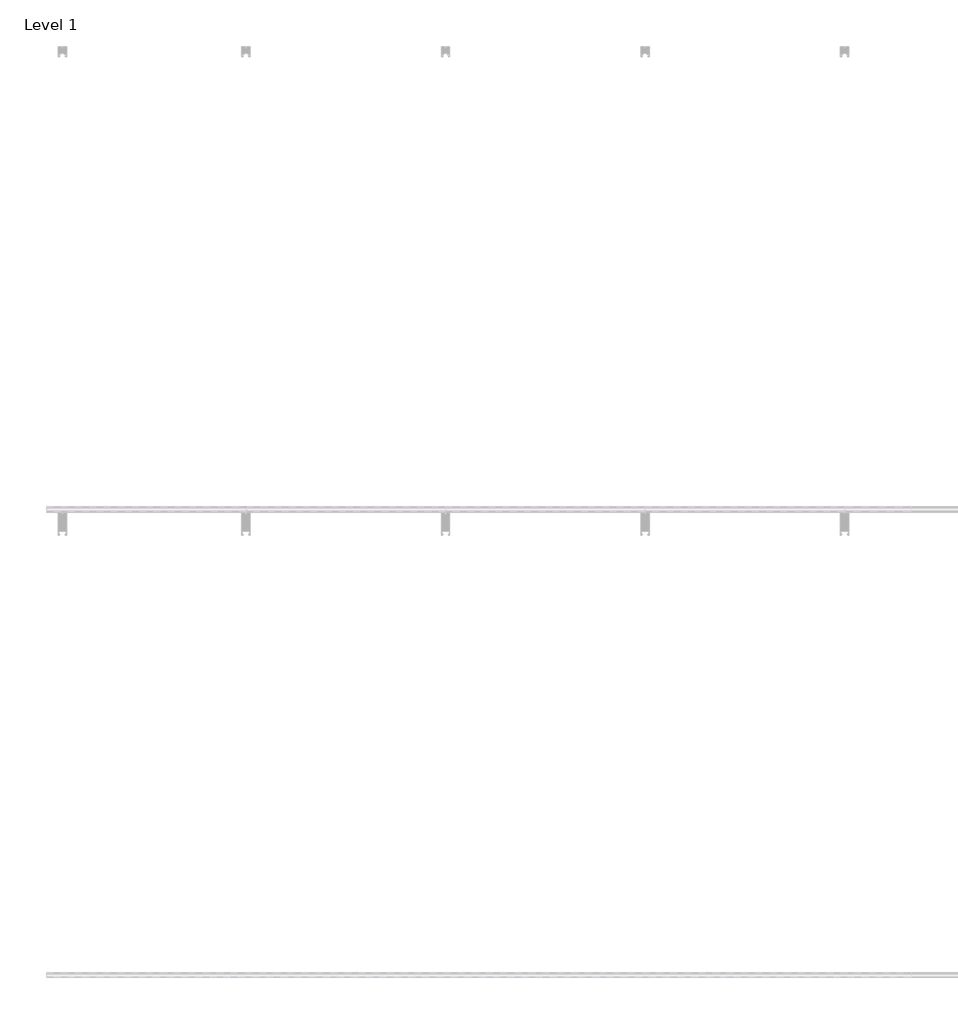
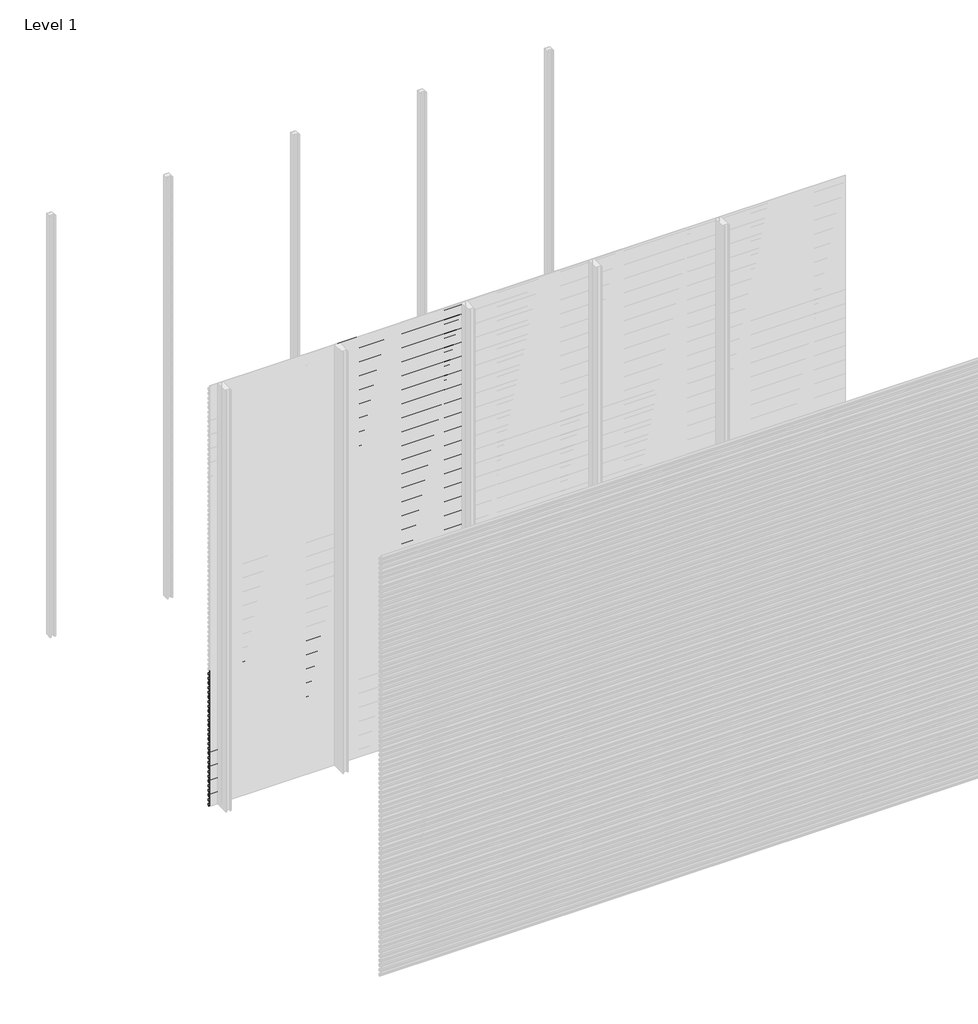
# One storey, part 62 of 96: 77 proxies.
"""IFC4 building model written with IfcOpenShell, lengths in millimetres."""

from ifc_helpers import new_model, si_unit, frame, origin, place, context, project, spatial, polyline, outline, extrude, element, save

model = new_model("IFC4")

# Units and contexts
model_context = context("Model", 3, world=origin())
ifc_project = project(units=[si_unit("LENGTHUNIT", "METRE", prefix="MILLI")], contexts=[model_context])

# Site, building, storey
site = spatial("IfcSite", under=ifc_project)
building = spatial("IfcBuilding", under=site)
storey = spatial("IfcBuildingStorey", under=building, Name="Level 1", Elevation=0.0)

# Proxies
placement = place(None, origin())
element("IfcBuildingElementProxy", 1, Name="Wall Sweeps", at=placement, inside=storey, context=model_context, shape_type="SweptSolid", body=[
    extrude(outline(polyline([(-17977.6, 940.4655033), (-17977.6, 926.1779188), (-17982.4114965, 923.4), (-17982.4114965, 924.6701706), (-17978.85, 926.7264016), (-17978.85, 939.7437382), (-17998.0, 950.8000799), (-17998.0, 965.7), (-17996.75, 965.7), (-17996.75, 951.5217609), (-17977.6, 940.4655033)])), frame((0.0, 0.0, 0.0), z_axis=(1.0, 0.0, 0.0), x_axis=(0.0, 1.0, 0.0)), (0.0, 0.0, 1.0), 857.1428571),
])
element("IfcBuildingElementProxy", 2, Name="Wall Sweeps", at=placement, inside=storey, context=model_context, shape_type="SweptSolid", body=[
    extrude(outline(polyline([(-17977.6, 907.1655033), (-17977.6, 892.8779188), (-17982.4114965, 890.1), (-17982.4114965, 891.3701706), (-17978.85, 893.4264016), (-17978.85, 906.4437382), (-17998.0, 917.5000799), (-17998.0, 932.4), (-17996.75, 932.4), (-17996.75, 918.2217609), (-17977.6, 907.1655033)])), frame((0.0, 0.0, 0.0), z_axis=(1.0, 0.0, 0.0), x_axis=(0.0, 1.0, 0.0)), (0.0, 0.0, 1.0), 857.1428571),
])
element("IfcBuildingElementProxy", 3, Name="Wall Sweeps", at=placement, inside=storey, context=model_context, shape_type="SweptSolid", body=[
    extrude(outline(polyline([(-17977.6, 873.8655033), (-17977.6, 859.5779188), (-17982.4114965, 856.8), (-17982.4114965, 858.0701706), (-17978.85, 860.1264016), (-17978.85, 873.1437382), (-17998.0, 884.2000799), (-17998.0, 899.1), (-17996.75, 899.1), (-17996.75, 884.9217609), (-17977.6, 873.8655033)])), frame((0.0, 0.0, 0.0), z_axis=(1.0, 0.0, 0.0), x_axis=(0.0, 1.0, 0.0)), (0.0, 0.0, 1.0), 857.1428571),
])
element("IfcBuildingElementProxy", 4, Name="Wall Sweeps", at=placement, inside=storey, context=model_context, shape_type="SweptSolid", body=[
    extrude(outline(polyline([(-17977.6, 840.5655033), (-17977.6, 826.2779188), (-17982.4114965, 823.5), (-17982.4114965, 824.7701706), (-17978.85, 826.8264016), (-17978.85, 839.8437382), (-17998.0, 850.9000799), (-17998.0, 865.8), (-17996.75, 865.8), (-17996.75, 851.6217609), (-17977.6, 840.5655033)])), frame((0.0, 0.0, 0.0), z_axis=(1.0, 0.0, 0.0), x_axis=(0.0, 1.0, 0.0)), (0.0, 0.0, 1.0), 857.1428571),
])
element("IfcBuildingElementProxy", 5, Name="Wall Sweeps", at=placement, inside=storey, context=model_context, shape_type="SweptSolid", body=[
    extrude(outline(polyline([(-17977.6, 807.2655033), (-17977.6, 792.9779188), (-17982.4114965, 790.2), (-17982.4114965, 791.4701706), (-17978.85, 793.5264016), (-17978.85, 806.5437382), (-17998.0, 817.6000799), (-17998.0, 832.5), (-17996.75, 832.5), (-17996.75, 818.3217609), (-17977.6, 807.2655033)])), frame((0.0, 0.0, 0.0), z_axis=(1.0, 0.0, 0.0), x_axis=(0.0, 1.0, 0.0)), (0.0, 0.0, 1.0), 857.1428571),
])
element("IfcBuildingElementProxy", 6, Name="Wall Sweeps", at=placement, inside=storey, context=model_context, shape_type="SweptSolid", body=[
    extrude(outline(polyline([(-17977.6, 773.9655033), (-17977.6, 759.6779188), (-17982.4114965, 756.9), (-17982.4114965, 758.1701706), (-17978.85, 760.2264016), (-17978.85, 773.2437382), (-17998.0, 784.3000799), (-17998.0, 799.2), (-17996.75, 799.2), (-17996.75, 785.0217609), (-17977.6, 773.9655033)])), frame((0.0, 0.0, 0.0), z_axis=(1.0, 0.0, 0.0), x_axis=(0.0, 1.0, 0.0)), (0.0, 0.0, 1.0), 857.1428571),
])
element("IfcBuildingElementProxy", 7, Name="Wall Sweeps", at=placement, inside=storey, context=model_context, shape_type="SweptSolid", body=[
    extrude(outline(polyline([(-17977.6, 740.6655033), (-17977.6, 726.3779188), (-17982.4114965, 723.6), (-17982.4114965, 724.8701706), (-17978.85, 726.9264016), (-17978.85, 739.9437382), (-17998.0, 751.0000799), (-17998.0, 765.9), (-17996.75, 765.9), (-17996.75, 751.7217609), (-17977.6, 740.6655033)])), frame((0.0, 0.0, 0.0), z_axis=(1.0, 0.0, 0.0), x_axis=(0.0, 1.0, 0.0)), (0.0, 0.0, 1.0), 857.1428571),
])
element("IfcBuildingElementProxy", 8, Name="Wall Sweeps", at=placement, inside=storey, context=model_context, shape_type="SweptSolid", body=[
    extrude(outline(polyline([(-17977.6, 707.3655033), (-17977.6, 693.0779188), (-17982.4114965, 690.3), (-17982.4114965, 691.5701706), (-17978.85, 693.6264016), (-17978.85, 706.6437382), (-17998.0, 717.7000799), (-17998.0, 732.6), (-17996.75, 732.6), (-17996.75, 718.4217609), (-17977.6, 707.3655033)])), frame((0.0, 0.0, 0.0), z_axis=(1.0, 0.0, 0.0), x_axis=(0.0, 1.0, 0.0)), (0.0, 0.0, 1.0), 857.1428571),
])
element("IfcBuildingElementProxy", 9, Name="Wall Sweeps", at=placement, inside=storey, context=model_context, shape_type="SweptSolid", body=[
    extrude(outline(polyline([(-17977.6, 674.0655033), (-17977.6, 659.7779188), (-17982.4114965, 657.0), (-17982.4114965, 658.2701706), (-17978.85, 660.3264016), (-17978.85, 673.3437382), (-17998.0, 684.4000799), (-17998.0, 699.3), (-17996.75, 699.3), (-17996.75, 685.1217609), (-17977.6, 674.0655033)])), frame((0.0, 0.0, 0.0), z_axis=(1.0, 0.0, 0.0), x_axis=(0.0, 1.0, 0.0)), (0.0, 0.0, 1.0), 857.1428571),
])
element("IfcBuildingElementProxy", 10, Name="Wall Sweeps", at=placement, inside=storey, context=model_context, shape_type="SweptSolid", body=[
    extrude(outline(polyline([(-17977.6, 640.7655033), (-17977.6, 626.4779188), (-17982.4114965, 623.7), (-17982.4114965, 624.9701706), (-17978.85, 627.0264016), (-17978.85, 640.0437382), (-17998.0, 651.1000799), (-17998.0, 666.0), (-17996.75, 666.0), (-17996.75, 651.8217609), (-17977.6, 640.7655033)])), frame((0.0, 0.0, 0.0), z_axis=(1.0, 0.0, 0.0), x_axis=(0.0, 1.0, 0.0)), (0.0, 0.0, 1.0), 857.1428571),
])
element("IfcBuildingElementProxy", 11, Name="Wall Sweeps", at=placement, inside=storey, context=model_context, shape_type="SweptSolid", body=[
    extrude(outline(polyline([(-17977.6, 607.4655033), (-17977.6, 593.1779188), (-17982.4114965, 590.4), (-17982.4114965, 591.6701706), (-17978.85, 593.7264016), (-17978.85, 606.7437382), (-17998.0, 617.8000799), (-17998.0, 632.7), (-17996.75, 632.7), (-17996.75, 618.5217609), (-17977.6, 607.4655033)])), frame((0.0, 0.0, 0.0), z_axis=(1.0, 0.0, 0.0), x_axis=(0.0, 1.0, 0.0)), (0.0, 0.0, 1.0), 857.1428571),
])
element("IfcBuildingElementProxy", 12, Name="Wall Sweeps", at=placement, inside=storey, context=model_context, shape_type="SweptSolid", body=[
    extrude(outline(polyline([(-17977.6, 574.1655033), (-17977.6, 559.8779188), (-17982.4114965, 557.1), (-17982.4114965, 558.3701706), (-17978.85, 560.4264016), (-17978.85, 573.4437382), (-17998.0, 584.5000799), (-17998.0, 599.4), (-17996.75, 599.4), (-17996.75, 585.2217609), (-17977.6, 574.1655033)])), frame((0.0, 0.0, 0.0), z_axis=(1.0, 0.0, 0.0), x_axis=(0.0, 1.0, 0.0)), (0.0, 0.0, 1.0), 857.1428571),
])
element("IfcBuildingElementProxy", 13, Name="Wall Sweeps", at=placement, inside=storey, context=model_context, shape_type="SweptSolid", body=[
    extrude(outline(polyline([(-17977.6, 540.8655033), (-17977.6, 526.5779188), (-17982.4114965, 523.8), (-17982.4114965, 525.0701706), (-17978.85, 527.1264016), (-17978.85, 540.1437382), (-17998.0, 551.2000799), (-17998.0, 566.1), (-17996.75, 566.1), (-17996.75, 551.9217609), (-17977.6, 540.8655033)])), frame((0.0, 0.0, 0.0), z_axis=(1.0, 0.0, 0.0), x_axis=(0.0, 1.0, 0.0)), (0.0, 0.0, 1.0), 857.1428571),
])
element("IfcBuildingElementProxy", 14, Name="Wall Sweeps", at=placement, inside=storey, context=model_context, shape_type="SweptSolid", body=[
    extrude(outline(polyline([(-17977.6, 507.5655033), (-17977.6, 493.2779188), (-17982.4114965, 490.5), (-17982.4114965, 491.7701706), (-17978.85, 493.8264016), (-17978.85, 506.8437382), (-17998.0, 517.9000799), (-17998.0, 532.8), (-17996.75, 532.8), (-17996.75, 518.6217609), (-17977.6, 507.5655033)])), frame((0.0, 0.0, 0.0), z_axis=(1.0, 0.0, 0.0), x_axis=(0.0, 1.0, 0.0)), (0.0, 0.0, 1.0), 857.1428571),
])
element("IfcBuildingElementProxy", 15, Name="Wall Sweeps", at=placement, inside=storey, context=model_context, shape_type="SweptSolid", body=[
    extrude(outline(polyline([(-17977.6, 474.2655033), (-17977.6, 459.9779188), (-17982.4114965, 457.2), (-17982.4114965, 458.4701706), (-17978.85, 460.5264016), (-17978.85, 473.5437382), (-17998.0, 484.6000799), (-17998.0, 499.5), (-17996.75, 499.5), (-17996.75, 485.3217609), (-17977.6, 474.2655033)])), frame((0.0, 0.0, 0.0), z_axis=(1.0, 0.0, 0.0), x_axis=(0.0, 1.0, 0.0)), (0.0, 0.0, 1.0), 857.1428571),
])
element("IfcBuildingElementProxy", 16, Name="Wall Sweeps", at=placement, inside=storey, context=model_context, shape_type="SweptSolid", body=[
    extrude(outline(polyline([(-17977.6, 440.9655033), (-17977.6, 426.6779188), (-17982.4114965, 423.9), (-17982.4114965, 425.1701706), (-17978.85, 427.2264016), (-17978.85, 440.2437382), (-17998.0, 451.3000799), (-17998.0, 466.2), (-17996.75, 466.2), (-17996.75, 452.0217609), (-17977.6, 440.9655033)])), frame((0.0, 0.0, 0.0), z_axis=(1.0, 0.0, 0.0), x_axis=(0.0, 1.0, 0.0)), (0.0, 0.0, 1.0), 857.1428571),
])
element("IfcBuildingElementProxy", 17, Name="Wall Sweeps", at=placement, inside=storey, context=model_context, shape_type="SweptSolid", body=[
    extrude(outline(polyline([(-17977.6, 407.6655033), (-17977.6, 393.3779188), (-17982.4114965, 390.6), (-17982.4114965, 391.8701706), (-17978.85, 393.9264016), (-17978.85, 406.9437382), (-17998.0, 418.0000799), (-17998.0, 432.9), (-17996.75, 432.9), (-17996.75, 418.7217609), (-17977.6, 407.6655033)])), frame((0.0, 0.0, 0.0), z_axis=(1.0, 0.0, 0.0), x_axis=(0.0, 1.0, 0.0)), (0.0, 0.0, 1.0), 857.1428571),
])
element("IfcBuildingElementProxy", 18, Name="Wall Sweeps", at=placement, inside=storey, context=model_context, shape_type="SweptSolid", body=[
    extrude(outline(polyline([(-17977.6, 374.3655033), (-17977.6, 360.0779188), (-17982.4114965, 357.3), (-17982.4114965, 358.5701706), (-17978.85, 360.6264016), (-17978.85, 373.6437382), (-17998.0, 384.7000799), (-17998.0, 399.6), (-17996.75, 399.6), (-17996.75, 385.4217609), (-17977.6, 374.3655033)])), frame((0.0, 0.0, 0.0), z_axis=(1.0, 0.0, 0.0), x_axis=(0.0, 1.0, 0.0)), (0.0, 0.0, 1.0), 857.1428571),
])
element("IfcBuildingElementProxy", 19, Name="Wall Sweeps", at=placement, inside=storey, context=model_context, shape_type="SweptSolid", body=[
    extrude(outline(polyline([(-17977.6, 341.0655033), (-17977.6, 326.7779188), (-17982.4114965, 324.0), (-17982.4114965, 325.2701706), (-17978.85, 327.3264016), (-17978.85, 340.3437382), (-17998.0, 351.4000799), (-17998.0, 366.3), (-17996.75, 366.3), (-17996.75, 352.1217609), (-17977.6, 341.0655033)])), frame((0.0, 0.0, 0.0), z_axis=(1.0, 0.0, 0.0), x_axis=(0.0, 1.0, 0.0)), (0.0, 0.0, 1.0), 857.1428571),
])
element("IfcBuildingElementProxy", 20, Name="Wall Sweeps", at=placement, inside=storey, context=model_context, shape_type="SweptSolid", body=[
    extrude(outline(polyline([(-17977.6, 307.7655033), (-17977.6, 293.4779188), (-17982.4114965, 290.7), (-17982.4114965, 291.9701706), (-17978.85, 294.0264016), (-17978.85, 307.0437382), (-17998.0, 318.1000799), (-17998.0, 333.0), (-17996.75, 333.0), (-17996.75, 318.8217609), (-17977.6, 307.7655033)])), frame((0.0, 0.0, 0.0), z_axis=(1.0, 0.0, 0.0), x_axis=(0.0, 1.0, 0.0)), (0.0, 0.0, 1.0), 857.1428571),
])
element("IfcBuildingElementProxy", 21, Name="Wall Sweeps", at=placement, inside=storey, context=model_context, shape_type="SweptSolid", body=[
    extrude(outline(polyline([(-17977.6, 274.4655033), (-17977.6, 260.1779188), (-17982.4114965, 257.4), (-17982.4114965, 258.6701706), (-17978.85, 260.7264016), (-17978.85, 273.7437382), (-17998.0, 284.8000799), (-17998.0, 299.7), (-17996.75, 299.7), (-17996.75, 285.5217609), (-17977.6, 274.4655033)])), frame((0.0, 0.0, 0.0), z_axis=(1.0, 0.0, 0.0), x_axis=(0.0, 1.0, 0.0)), (0.0, 0.0, 1.0), 857.1428571),
])
element("IfcBuildingElementProxy", 22, Name="Wall Sweeps", at=placement, inside=storey, context=model_context, shape_type="SweptSolid", body=[
    extrude(outline(polyline([(-17977.6, 241.1655033), (-17977.6, 226.8779188), (-17982.4114965, 224.1), (-17982.4114965, 225.3701706), (-17978.85, 227.4264016), (-17978.85, 240.4437382), (-17998.0, 251.5000799), (-17998.0, 266.4), (-17996.75, 266.4), (-17996.75, 252.2217609), (-17977.6, 241.1655033)])), frame((0.0, 0.0, 0.0), z_axis=(1.0, 0.0, 0.0), x_axis=(0.0, 1.0, 0.0)), (0.0, 0.0, 1.0), 857.1428571),
])
element("IfcBuildingElementProxy", 23, Name="Wall Sweeps", at=placement, inside=storey, context=model_context, shape_type="SweptSolid", body=[
    extrude(outline(polyline([(-17977.6, 207.8655033), (-17977.6, 193.5779188), (-17982.4114965, 190.8), (-17982.4114965, 192.0701706), (-17978.85, 194.1264016), (-17978.85, 207.1437382), (-17998.0, 218.2000799), (-17998.0, 233.1), (-17996.75, 233.1), (-17996.75, 218.9217609), (-17977.6, 207.8655033)])), frame((0.0, 0.0, 0.0), z_axis=(1.0, 0.0, 0.0), x_axis=(0.0, 1.0, 0.0)), (0.0, 0.0, 1.0), 857.1428571),
])
element("IfcBuildingElementProxy", 24, Name="Wall Sweeps", at=placement, inside=storey, context=model_context, shape_type="SweptSolid", body=[
    extrude(outline(polyline([(-17977.6, 174.5655033), (-17977.6, 160.2779188), (-17982.4114965, 157.5), (-17982.4114965, 158.7701706), (-17978.85, 160.8264016), (-17978.85, 173.8437382), (-17998.0, 184.9000799), (-17998.0, 199.8), (-17996.75, 199.8), (-17996.75, 185.6217609), (-17977.6, 174.5655033)])), frame((0.0, 0.0, 0.0), z_axis=(1.0, 0.0, 0.0), x_axis=(0.0, 1.0, 0.0)), (0.0, 0.0, 1.0), 857.1428571),
])
element("IfcBuildingElementProxy", 25, Name="Wall Sweeps", at=placement, inside=storey, context=model_context, shape_type="SweptSolid", body=[
    extrude(outline(polyline([(-17977.6, 141.2655033), (-17977.6, 126.9779188), (-17982.4114965, 124.2), (-17982.4114965, 125.4701706), (-17978.85, 127.5264016), (-17978.85, 140.5437382), (-17998.0, 151.6000799), (-17998.0, 166.5), (-17996.75, 166.5), (-17996.75, 152.3217609), (-17977.6, 141.2655033)])), frame((0.0, 0.0, 0.0), z_axis=(1.0, 0.0, 0.0), x_axis=(0.0, 1.0, 0.0)), (0.0, 0.0, 1.0), 857.1428571),
])
element("IfcBuildingElementProxy", 26, Name="Wall Sweeps", at=placement, inside=storey, context=model_context, shape_type="SweptSolid", body=[
    extrude(outline(polyline([(-17977.6, 107.9655033), (-17977.6, 93.6779188), (-17982.4114965, 90.9), (-17982.4114965, 92.1701706), (-17978.85, 94.2264016), (-17978.85, 107.2437382), (-17998.0, 118.3000799), (-17998.0, 133.2), (-17996.75, 133.2), (-17996.75, 119.0217609), (-17977.6, 107.9655033)])), frame((0.0, 0.0, 0.0), z_axis=(1.0, 0.0, 0.0), x_axis=(0.0, 1.0, 0.0)), (0.0, 0.0, 1.0), 857.1428571),
])
element("IfcBuildingElementProxy", 27, Name="Wall Sweeps", at=placement, inside=storey, context=model_context, shape_type="SweptSolid", body=[
    extrude(outline(polyline([(-17977.6, 74.6655033), (-17977.6, 60.3779188), (-17982.4114965, 57.6), (-17982.4114965, 58.8701706), (-17978.85, 60.9264016), (-17978.85, 73.9437382), (-17998.0, 85.0000799), (-17998.0, 99.9), (-17996.75, 99.9), (-17996.75, 85.7217609), (-17977.6, 74.6655033)])), frame((0.0, 0.0, 0.0), z_axis=(1.0, 0.0, 0.0), x_axis=(0.0, 1.0, 0.0)), (0.0, 0.0, 1.0), 857.1428571),
])
element("IfcBuildingElementProxy", 28, Name="Wall Sweeps", at=placement, inside=storey, context=model_context, shape_type="SweptSolid", body=[
    extrude(outline(polyline([(-17977.6, 41.3655033), (-17977.6, 27.0779188), (-17982.4114965, 24.3), (-17982.4114965, 25.5701706), (-17978.85, 27.6264016), (-17978.85, 40.6437382), (-17998.0, 51.7000799), (-17998.0, 66.6), (-17996.75, 66.6), (-17996.75, 52.4217609), (-17977.6, 41.3655033)])), frame((0.0, 0.0, 0.0), z_axis=(1.0, 0.0, 0.0), x_axis=(0.0, 1.0, 0.0)), (0.0, 0.0, 1.0), 857.1428571),
])
element("IfcBuildingElementProxy", 29, Name="Wall Sweeps", at=placement, inside=storey, context=model_context, shape_type="SweptSolid", body=[
    extrude(outline(polyline([(-17977.6, 8.0655033), (-17977.6, -6.2220812), (-17982.4114965, -9.0), (-17982.4114965, -7.7298294), (-17978.85, -5.6735984), (-17978.85, 7.3437382), (-17998.0, 18.4000799), (-17998.0, 33.3), (-17996.75, 33.3), (-17996.75, 19.1217609), (-17977.6, 8.0655033)])), frame((0.0, 0.0, 0.0), z_axis=(1.0, 0.0, 0.0), x_axis=(0.0, 1.0, 0.0)), (0.0, 0.0, 1.0), 857.1428571),
])
element("IfcBuildingElementProxy", 30, Name="Wall Sweeps", at=placement, inside=storey, context=model_context, shape_type="SweptSolid", body=[
    extrude(outline(polyline([(-17977.6, 2971.7655033), (-17977.6, 2957.4779188), (-17982.4114965, 2954.7), (-17982.4114965, 2955.9701706), (-17978.85, 2958.0264016), (-17978.85, 2971.0437382), (-17998.0, 2982.1000799), (-17998.0, 2997.0), (-17996.75, 2997.0), (-17996.75, 2982.8217609), (-17977.6, 2971.7655033)])), frame((857.1428571, 0.0, 0.0), z_axis=(1.0, 0.0, 0.0), x_axis=(0.0, 1.0, 0.0)), (0.0, 0.0, 1.0), 857.1428571),
])
element("IfcBuildingElementProxy", 31, Name="Wall Sweeps", at=placement, inside=storey, context=model_context, shape_type="SweptSolid", body=[
    extrude(outline(polyline([(-17977.6, 2938.4655033), (-17977.6, 2924.1779188), (-17982.4114965, 2921.4), (-17982.4114965, 2922.6701706), (-17978.85, 2924.7264016), (-17978.85, 2937.7437382), (-17998.0, 2948.8000799), (-17998.0, 2963.7), (-17996.75, 2963.7), (-17996.75, 2949.5217609), (-17977.6, 2938.4655033)])), frame((857.1428571, 0.0, 0.0), z_axis=(1.0, 0.0, 0.0), x_axis=(0.0, 1.0, 0.0)), (0.0, 0.0, 1.0), 857.1428571),
])
element("IfcBuildingElementProxy", 32, Name="Wall Sweeps", at=placement, inside=storey, context=model_context, shape_type="SweptSolid", body=[
    extrude(outline(polyline([(-17977.6, 2905.1655033), (-17977.6, 2890.8779188), (-17982.4114965, 2888.1), (-17982.4114965, 2889.3701706), (-17978.85, 2891.4264016), (-17978.85, 2904.4437382), (-17998.0, 2915.5000799), (-17998.0, 2930.4), (-17996.75, 2930.4), (-17996.75, 2916.2217609), (-17977.6, 2905.1655033)])), frame((857.1428571, 0.0, 0.0), z_axis=(1.0, 0.0, 0.0), x_axis=(0.0, 1.0, 0.0)), (0.0, 0.0, 1.0), 857.1428571),
])
element("IfcBuildingElementProxy", 33, Name="Wall Sweeps", at=placement, inside=storey, context=model_context, shape_type="SweptSolid", body=[
    extrude(outline(polyline([(-17977.6, 2871.8655033), (-17977.6, 2857.5779188), (-17982.4114965, 2854.8), (-17982.4114965, 2856.0701706), (-17978.85, 2858.1264016), (-17978.85, 2871.1437382), (-17998.0, 2882.2000799), (-17998.0, 2897.1), (-17996.75, 2897.1), (-17996.75, 2882.9217609), (-17977.6, 2871.8655033)])), frame((857.1428571, 0.0, 0.0), z_axis=(1.0, 0.0, 0.0), x_axis=(0.0, 1.0, 0.0)), (0.0, 0.0, 1.0), 857.1428571),
])
element("IfcBuildingElementProxy", 34, Name="Wall Sweeps", at=placement, inside=storey, context=model_context, shape_type="SweptSolid", body=[
    extrude(outline(polyline([(-17977.6, 2838.5655033), (-17977.6, 2824.2779188), (-17982.4114965, 2821.5), (-17982.4114965, 2822.7701706), (-17978.85, 2824.8264016), (-17978.85, 2837.8437382), (-17998.0, 2848.9000799), (-17998.0, 2863.8), (-17996.75, 2863.8), (-17996.75, 2849.6217609), (-17977.6, 2838.5655033)])), frame((857.1428571, 0.0, 0.0), z_axis=(1.0, 0.0, 0.0), x_axis=(0.0, 1.0, 0.0)), (0.0, 0.0, 1.0), 857.1428571),
])
element("IfcBuildingElementProxy", 35, Name="Wall Sweeps", at=placement, inside=storey, context=model_context, shape_type="SweptSolid", body=[
    extrude(outline(polyline([(-17977.6, 2805.2655033), (-17977.6, 2790.9779188), (-17982.4114965, 2788.2), (-17982.4114965, 2789.4701706), (-17978.85, 2791.5264016), (-17978.85, 2804.5437382), (-17998.0, 2815.6000799), (-17998.0, 2830.5), (-17996.75, 2830.5), (-17996.75, 2816.3217609), (-17977.6, 2805.2655033)])), frame((857.1428571, 0.0, 0.0), z_axis=(1.0, 0.0, 0.0), x_axis=(0.0, 1.0, 0.0)), (0.0, 0.0, 1.0), 857.1428571),
])
element("IfcBuildingElementProxy", 36, Name="Wall Sweeps", at=placement, inside=storey, context=model_context, shape_type="SweptSolid", body=[
    extrude(outline(polyline([(-17977.6, 2771.9655033), (-17977.6, 2757.6779188), (-17982.4114965, 2754.9), (-17982.4114965, 2756.1701706), (-17978.85, 2758.2264016), (-17978.85, 2771.2437382), (-17998.0, 2782.3000799), (-17998.0, 2797.2), (-17996.75, 2797.2), (-17996.75, 2783.0217609), (-17977.6, 2771.9655033)])), frame((857.1428571, 0.0, 0.0), z_axis=(1.0, 0.0, 0.0), x_axis=(0.0, 1.0, 0.0)), (0.0, 0.0, 1.0), 857.1428571),
])
element("IfcBuildingElementProxy", 37, Name="Wall Sweeps", at=placement, inside=storey, context=model_context, shape_type="SweptSolid", body=[
    extrude(outline(polyline([(-17977.6, 2738.6655033), (-17977.6, 2724.3779188), (-17982.4114965, 2721.6), (-17982.4114965, 2722.8701706), (-17978.85, 2724.9264016), (-17978.85, 2737.9437382), (-17998.0, 2749.0000799), (-17998.0, 2763.9), (-17996.75, 2763.9), (-17996.75, 2749.7217609), (-17977.6, 2738.6655033)])), frame((857.1428571, 0.0, 0.0), z_axis=(1.0, 0.0, 0.0), x_axis=(0.0, 1.0, 0.0)), (0.0, 0.0, 1.0), 857.1428571),
])
element("IfcBuildingElementProxy", 38, Name="Wall Sweeps", at=placement, inside=storey, context=model_context, shape_type="SweptSolid", body=[
    extrude(outline(polyline([(-17977.6, 2705.3655033), (-17977.6, 2691.0779188), (-17982.4114965, 2688.3), (-17982.4114965, 2689.5701706), (-17978.85, 2691.6264016), (-17978.85, 2704.6437382), (-17998.0, 2715.7000799), (-17998.0, 2730.6), (-17996.75, 2730.6), (-17996.75, 2716.4217609), (-17977.6, 2705.3655033)])), frame((857.1428571, 0.0, 0.0), z_axis=(1.0, 0.0, 0.0), x_axis=(0.0, 1.0, 0.0)), (0.0, 0.0, 1.0), 857.1428571),
])
element("IfcBuildingElementProxy", 39, Name="Wall Sweeps", at=placement, inside=storey, context=model_context, shape_type="SweptSolid", body=[
    extrude(outline(polyline([(-17977.6, 2672.0655033), (-17977.6, 2657.7779188), (-17982.4114965, 2655.0), (-17982.4114965, 2656.2701706), (-17978.85, 2658.3264016), (-17978.85, 2671.3437382), (-17998.0, 2682.4000799), (-17998.0, 2697.3), (-17996.75, 2697.3), (-17996.75, 2683.1217609), (-17977.6, 2672.0655033)])), frame((857.1428571, 0.0, 0.0), z_axis=(1.0, 0.0, 0.0), x_axis=(0.0, 1.0, 0.0)), (0.0, 0.0, 1.0), 857.1428571),
])
element("IfcBuildingElementProxy", 40, Name="Wall Sweeps", at=placement, inside=storey, context=model_context, shape_type="SweptSolid", body=[
    extrude(outline(polyline([(-17977.6, 2638.7655033), (-17977.6, 2624.4779188), (-17982.4114965, 2621.7), (-17982.4114965, 2622.9701706), (-17978.85, 2625.0264016), (-17978.85, 2638.0437382), (-17998.0, 2649.1000799), (-17998.0, 2664.0), (-17996.75, 2664.0), (-17996.75, 2649.8217609), (-17977.6, 2638.7655033)])), frame((857.1428571, 0.0, 0.0), z_axis=(1.0, 0.0, 0.0), x_axis=(0.0, 1.0, 0.0)), (0.0, 0.0, 1.0), 857.1428571),
])
element("IfcBuildingElementProxy", 41, Name="Wall Sweeps", at=placement, inside=storey, context=model_context, shape_type="SweptSolid", body=[
    extrude(outline(polyline([(-17977.6, 2605.4655033), (-17977.6, 2591.1779188), (-17982.4114965, 2588.4), (-17982.4114965, 2589.6701706), (-17978.85, 2591.7264016), (-17978.85, 2604.7437382), (-17998.0, 2615.8000799), (-17998.0, 2630.7), (-17996.75, 2630.7), (-17996.75, 2616.5217609), (-17977.6, 2605.4655033)])), frame((857.1428571, 0.0, 0.0), z_axis=(1.0, 0.0, 0.0), x_axis=(0.0, 1.0, 0.0)), (0.0, 0.0, 1.0), 857.1428571),
])
element("IfcBuildingElementProxy", 42, Name="Wall Sweeps", at=placement, inside=storey, context=model_context, shape_type="SweptSolid", body=[
    extrude(outline(polyline([(-17977.6, 2572.1655033), (-17977.6, 2557.8779188), (-17982.4114965, 2555.1), (-17982.4114965, 2556.3701706), (-17978.85, 2558.4264016), (-17978.85, 2571.4437382), (-17998.0, 2582.5000799), (-17998.0, 2597.4), (-17996.75, 2597.4), (-17996.75, 2583.2217609), (-17977.6, 2572.1655033)])), frame((857.1428571, 0.0, 0.0), z_axis=(1.0, 0.0, 0.0), x_axis=(0.0, 1.0, 0.0)), (0.0, 0.0, 1.0), 857.1428571),
])
element("IfcBuildingElementProxy", 43, Name="Wall Sweeps", at=placement, inside=storey, context=model_context, shape_type="SweptSolid", body=[
    extrude(outline(polyline([(-17977.6, 2538.8655033), (-17977.6, 2524.5779188), (-17982.4114965, 2521.8), (-17982.4114965, 2523.0701706), (-17978.85, 2525.1264016), (-17978.85, 2538.1437382), (-17998.0, 2549.2000799), (-17998.0, 2564.1), (-17996.75, 2564.1), (-17996.75, 2549.9217609), (-17977.6, 2538.8655033)])), frame((857.1428571, 0.0, 0.0), z_axis=(1.0, 0.0, 0.0), x_axis=(0.0, 1.0, 0.0)), (0.0, 0.0, 1.0), 857.1428571),
])
element("IfcBuildingElementProxy", 44, Name="Wall Sweeps", at=placement, inside=storey, context=model_context, shape_type="SweptSolid", body=[
    extrude(outline(polyline([(-17977.6, 2505.5655033), (-17977.6, 2491.2779188), (-17982.4114965, 2488.5), (-17982.4114965, 2489.7701706), (-17978.85, 2491.8264016), (-17978.85, 2504.8437382), (-17998.0, 2515.9000799), (-17998.0, 2530.8), (-17996.75, 2530.8), (-17996.75, 2516.6217609), (-17977.6, 2505.5655033)])), frame((857.1428571, 0.0, 0.0), z_axis=(1.0, 0.0, 0.0), x_axis=(0.0, 1.0, 0.0)), (0.0, 0.0, 1.0), 857.1428571),
])
element("IfcBuildingElementProxy", 45, Name="Wall Sweeps", at=placement, inside=storey, context=model_context, shape_type="SweptSolid", body=[
    extrude(outline(polyline([(-17977.6, 2472.2655033), (-17977.6, 2457.9779188), (-17982.4114965, 2455.2), (-17982.4114965, 2456.4701706), (-17978.85, 2458.5264016), (-17978.85, 2471.5437382), (-17998.0, 2482.6000799), (-17998.0, 2497.5), (-17996.75, 2497.5), (-17996.75, 2483.3217609), (-17977.6, 2472.2655033)])), frame((857.1428571, 0.0, 0.0), z_axis=(1.0, 0.0, 0.0), x_axis=(0.0, 1.0, 0.0)), (0.0, 0.0, 1.0), 857.1428571),
])
element("IfcBuildingElementProxy", 46, Name="Wall Sweeps", at=placement, inside=storey, context=model_context, shape_type="SweptSolid", body=[
    extrude(outline(polyline([(-17977.6, 2438.9655033), (-17977.6, 2424.6779188), (-17982.4114965, 2421.9), (-17982.4114965, 2423.1701706), (-17978.85, 2425.2264016), (-17978.85, 2438.2437382), (-17998.0, 2449.3000799), (-17998.0, 2464.2), (-17996.75, 2464.2), (-17996.75, 2450.0217609), (-17977.6, 2438.9655033)])), frame((857.1428571, 0.0, 0.0), z_axis=(1.0, 0.0, 0.0), x_axis=(0.0, 1.0, 0.0)), (0.0, 0.0, 1.0), 857.1428571),
])
element("IfcBuildingElementProxy", 47, Name="Wall Sweeps", at=placement, inside=storey, context=model_context, shape_type="SweptSolid", body=[
    extrude(outline(polyline([(-17977.6, 2405.6655033), (-17977.6, 2391.3779188), (-17982.4114965, 2388.6), (-17982.4114965, 2389.8701706), (-17978.85, 2391.9264016), (-17978.85, 2404.9437382), (-17998.0, 2416.0000799), (-17998.0, 2430.9), (-17996.75, 2430.9), (-17996.75, 2416.7217609), (-17977.6, 2405.6655033)])), frame((857.1428571, 0.0, 0.0), z_axis=(1.0, 0.0, 0.0), x_axis=(0.0, 1.0, 0.0)), (0.0, 0.0, 1.0), 857.1428571),
])
element("IfcBuildingElementProxy", 48, Name="Wall Sweeps", at=placement, inside=storey, context=model_context, shape_type="SweptSolid", body=[
    extrude(outline(polyline([(-17977.6, 2372.3655033), (-17977.6, 2358.0779188), (-17982.4114965, 2355.3), (-17982.4114965, 2356.5701706), (-17978.85, 2358.6264016), (-17978.85, 2371.6437382), (-17998.0, 2382.7000799), (-17998.0, 2397.6), (-17996.75, 2397.6), (-17996.75, 2383.4217609), (-17977.6, 2372.3655033)])), frame((857.1428571, 0.0, 0.0), z_axis=(1.0, 0.0, 0.0), x_axis=(0.0, 1.0, 0.0)), (0.0, 0.0, 1.0), 857.1428571),
])
element("IfcBuildingElementProxy", 49, Name="Wall Sweeps", at=placement, inside=storey, context=model_context, shape_type="SweptSolid", body=[
    extrude(outline(polyline([(-17977.6, 2339.0655033), (-17977.6, 2324.7779188), (-17982.4114965, 2322.0), (-17982.4114965, 2323.2701706), (-17978.85, 2325.3264016), (-17978.85, 2338.3437382), (-17998.0, 2349.4000799), (-17998.0, 2364.3), (-17996.75, 2364.3), (-17996.75, 2350.1217609), (-17977.6, 2339.0655033)])), frame((857.1428571, 0.0, 0.0), z_axis=(1.0, 0.0, 0.0), x_axis=(0.0, 1.0, 0.0)), (0.0, 0.0, 1.0), 857.1428571),
])
element("IfcBuildingElementProxy", 50, Name="Wall Sweeps", at=placement, inside=storey, context=model_context, shape_type="SweptSolid", body=[
    extrude(outline(polyline([(-17977.6, 2305.7655033), (-17977.6, 2291.4779188), (-17982.4114965, 2288.7), (-17982.4114965, 2289.9701706), (-17978.85, 2292.0264016), (-17978.85, 2305.0437382), (-17998.0, 2316.1000799), (-17998.0, 2331.0), (-17996.75, 2331.0), (-17996.75, 2316.8217609), (-17977.6, 2305.7655033)])), frame((857.1428571, 0.0, 0.0), z_axis=(1.0, 0.0, 0.0), x_axis=(0.0, 1.0, 0.0)), (0.0, 0.0, 1.0), 857.1428571),
])
element("IfcBuildingElementProxy", 51, Name="Wall Sweeps", at=placement, inside=storey, context=model_context, shape_type="SweptSolid", body=[
    extrude(outline(polyline([(-17977.6, 2272.4655033), (-17977.6, 2258.1779188), (-17982.4114965, 2255.4), (-17982.4114965, 2256.6701706), (-17978.85, 2258.7264016), (-17978.85, 2271.7437382), (-17998.0, 2282.8000799), (-17998.0, 2297.7), (-17996.75, 2297.7), (-17996.75, 2283.5217609), (-17977.6, 2272.4655033)])), frame((857.1428571, 0.0, 0.0), z_axis=(1.0, 0.0, 0.0), x_axis=(0.0, 1.0, 0.0)), (0.0, 0.0, 1.0), 857.1428571),
])
element("IfcBuildingElementProxy", 52, Name="Wall Sweeps", at=placement, inside=storey, context=model_context, shape_type="SweptSolid", body=[
    extrude(outline(polyline([(-17977.6, 2239.1655033), (-17977.6, 2224.8779188), (-17982.4114965, 2222.1), (-17982.4114965, 2223.3701706), (-17978.85, 2225.4264016), (-17978.85, 2238.4437382), (-17998.0, 2249.5000799), (-17998.0, 2264.4), (-17996.75, 2264.4), (-17996.75, 2250.2217609), (-17977.6, 2239.1655033)])), frame((857.1428571, 0.0, 0.0), z_axis=(1.0, 0.0, 0.0), x_axis=(0.0, 1.0, 0.0)), (0.0, 0.0, 1.0), 857.1428571),
])
element("IfcBuildingElementProxy", 53, Name="Wall Sweeps", at=placement, inside=storey, context=model_context, shape_type="SweptSolid", body=[
    extrude(outline(polyline([(-17977.6, 2205.8655033), (-17977.6, 2191.5779188), (-17982.4114965, 2188.8), (-17982.4114965, 2190.0701706), (-17978.85, 2192.1264016), (-17978.85, 2205.1437382), (-17998.0, 2216.2000799), (-17998.0, 2231.1), (-17996.75, 2231.1), (-17996.75, 2216.9217609), (-17977.6, 2205.8655033)])), frame((857.1428571, 0.0, 0.0), z_axis=(1.0, 0.0, 0.0), x_axis=(0.0, 1.0, 0.0)), (0.0, 0.0, 1.0), 857.1428571),
])
element("IfcBuildingElementProxy", 54, Name="Wall Sweeps", at=placement, inside=storey, context=model_context, shape_type="SweptSolid", body=[
    extrude(outline(polyline([(-17977.6, 2172.5655033), (-17977.6, 2158.2779188), (-17982.4114965, 2155.5), (-17982.4114965, 2156.7701706), (-17978.85, 2158.8264016), (-17978.85, 2171.8437382), (-17998.0, 2182.9000799), (-17998.0, 2197.8), (-17996.75, 2197.8), (-17996.75, 2183.6217609), (-17977.6, 2172.5655033)])), frame((857.1428571, 0.0, 0.0), z_axis=(1.0, 0.0, 0.0), x_axis=(0.0, 1.0, 0.0)), (0.0, 0.0, 1.0), 857.1428571),
])
element("IfcBuildingElementProxy", 55, Name="Wall Sweeps", at=placement, inside=storey, context=model_context, shape_type="SweptSolid", body=[
    extrude(outline(polyline([(-17977.6, 2139.2655033), (-17977.6, 2124.9779188), (-17982.4114965, 2122.2), (-17982.4114965, 2123.4701706), (-17978.85, 2125.5264016), (-17978.85, 2138.5437382), (-17998.0, 2149.6000799), (-17998.0, 2164.5), (-17996.75, 2164.5), (-17996.75, 2150.3217609), (-17977.6, 2139.2655033)])), frame((857.1428571, 0.0, 0.0), z_axis=(1.0, 0.0, 0.0), x_axis=(0.0, 1.0, 0.0)), (0.0, 0.0, 1.0), 857.1428571),
])
element("IfcBuildingElementProxy", 56, Name="Wall Sweeps", at=placement, inside=storey, context=model_context, shape_type="SweptSolid", body=[
    extrude(outline(polyline([(-17977.6, 2105.9655033), (-17977.6, 2091.6779188), (-17982.4114965, 2088.9), (-17982.4114965, 2090.1701706), (-17978.85, 2092.2264016), (-17978.85, 2105.2437382), (-17998.0, 2116.3000799), (-17998.0, 2131.2), (-17996.75, 2131.2), (-17996.75, 2117.0217609), (-17977.6, 2105.9655033)])), frame((857.1428571, 0.0, 0.0), z_axis=(1.0, 0.0, 0.0), x_axis=(0.0, 1.0, 0.0)), (0.0, 0.0, 1.0), 857.1428571),
])
element("IfcBuildingElementProxy", 57, Name="Wall Sweeps", at=placement, inside=storey, context=model_context, shape_type="SweptSolid", body=[
    extrude(outline(polyline([(-17977.6, 2072.6655033), (-17977.6, 2058.3779188), (-17982.4114965, 2055.6), (-17982.4114965, 2056.8701706), (-17978.85, 2058.9264016), (-17978.85, 2071.9437382), (-17998.0, 2083.0000799), (-17998.0, 2097.9), (-17996.75, 2097.9), (-17996.75, 2083.7217609), (-17977.6, 2072.6655033)])), frame((857.1428571, 0.0, 0.0), z_axis=(1.0, 0.0, 0.0), x_axis=(0.0, 1.0, 0.0)), (0.0, 0.0, 1.0), 857.1428571),
])
element("IfcBuildingElementProxy", 58, Name="Wall Sweeps", at=placement, inside=storey, context=model_context, shape_type="SweptSolid", body=[
    extrude(outline(polyline([(-17977.6, 2039.3655033), (-17977.6, 2025.0779188), (-17982.4114965, 2022.3), (-17982.4114965, 2023.5701706), (-17978.85, 2025.6264016), (-17978.85, 2038.6437382), (-17998.0, 2049.7000799), (-17998.0, 2064.6), (-17996.75, 2064.6), (-17996.75, 2050.4217609), (-17977.6, 2039.3655033)])), frame((857.1428571, 0.0, 0.0), z_axis=(1.0, 0.0, 0.0), x_axis=(0.0, 1.0, 0.0)), (0.0, 0.0, 1.0), 857.1428571),
])
element("IfcBuildingElementProxy", 59, Name="Wall Sweeps", at=placement, inside=storey, context=model_context, shape_type="SweptSolid", body=[
    extrude(outline(polyline([(-17977.6, 2006.0655033), (-17977.6, 1991.7779188), (-17982.4114965, 1989.0), (-17982.4114965, 1990.2701706), (-17978.85, 1992.3264016), (-17978.85, 2005.3437382), (-17998.0, 2016.4000799), (-17998.0, 2031.3), (-17996.75, 2031.3), (-17996.75, 2017.1217609), (-17977.6, 2006.0655033)])), frame((857.1428571, 0.0, 0.0), z_axis=(1.0, 0.0, 0.0), x_axis=(0.0, 1.0, 0.0)), (0.0, 0.0, 1.0), 857.1428571),
])
element("IfcBuildingElementProxy", 60, Name="Wall Sweeps", at=placement, inside=storey, context=model_context, shape_type="SweptSolid", body=[
    extrude(outline(polyline([(-17977.6, 1972.7655033), (-17977.6, 1958.4779188), (-17982.4114965, 1955.7), (-17982.4114965, 1956.9701706), (-17978.85, 1959.0264016), (-17978.85, 1972.0437382), (-17998.0, 1983.1000799), (-17998.0, 1998.0), (-17996.75, 1998.0), (-17996.75, 1983.8217609), (-17977.6, 1972.7655033)])), frame((857.1428571, 0.0, 0.0), z_axis=(1.0, 0.0, 0.0), x_axis=(0.0, 1.0, 0.0)), (0.0, 0.0, 1.0), 857.1428571),
])
element("IfcBuildingElementProxy", 61, Name="Wall Sweeps", at=placement, inside=storey, context=model_context, shape_type="SweptSolid", body=[
    extrude(outline(polyline([(-17977.6, 1939.4655033), (-17977.6, 1925.1779188), (-17982.4114965, 1922.4), (-17982.4114965, 1923.6701706), (-17978.85, 1925.7264016), (-17978.85, 1938.7437382), (-17998.0, 1949.8000799), (-17998.0, 1964.7), (-17996.75, 1964.7), (-17996.75, 1950.5217609), (-17977.6, 1939.4655033)])), frame((857.1428571, 0.0, 0.0), z_axis=(1.0, 0.0, 0.0), x_axis=(0.0, 1.0, 0.0)), (0.0, 0.0, 1.0), 857.1428571),
])
element("IfcBuildingElementProxy", 62, Name="Wall Sweeps", at=placement, inside=storey, context=model_context, shape_type="SweptSolid", body=[
    extrude(outline(polyline([(-17977.6, 1906.1655033), (-17977.6, 1891.8779188), (-17982.4114965, 1889.1), (-17982.4114965, 1890.3701706), (-17978.85, 1892.4264016), (-17978.85, 1905.4437382), (-17998.0, 1916.5000799), (-17998.0, 1931.4), (-17996.75, 1931.4), (-17996.75, 1917.2217609), (-17977.6, 1906.1655033)])), frame((857.1428571, 0.0, 0.0), z_axis=(1.0, 0.0, 0.0), x_axis=(0.0, 1.0, 0.0)), (0.0, 0.0, 1.0), 857.1428571),
])
element("IfcBuildingElementProxy", 63, Name="Wall Sweeps", at=placement, inside=storey, context=model_context, shape_type="SweptSolid", body=[
    extrude(outline(polyline([(-17977.6, 1872.8655033), (-17977.6, 1858.5779188), (-17982.4114965, 1855.8), (-17982.4114965, 1857.0701706), (-17978.85, 1859.1264016), (-17978.85, 1872.1437382), (-17998.0, 1883.2000799), (-17998.0, 1898.1), (-17996.75, 1898.1), (-17996.75, 1883.9217609), (-17977.6, 1872.8655033)])), frame((857.1428571, 0.0, 0.0), z_axis=(1.0, 0.0, 0.0), x_axis=(0.0, 1.0, 0.0)), (0.0, 0.0, 1.0), 857.1428571),
])
element("IfcBuildingElementProxy", 64, Name="Wall Sweeps", at=placement, inside=storey, context=model_context, shape_type="SweptSolid", body=[
    extrude(outline(polyline([(-17977.6, 1839.5655033), (-17977.6, 1825.2779188), (-17982.4114965, 1822.5), (-17982.4114965, 1823.7701706), (-17978.85, 1825.8264016), (-17978.85, 1838.8437382), (-17998.0, 1849.9000799), (-17998.0, 1864.8), (-17996.75, 1864.8), (-17996.75, 1850.6217609), (-17977.6, 1839.5655033)])), frame((857.1428571, 0.0, 0.0), z_axis=(1.0, 0.0, 0.0), x_axis=(0.0, 1.0, 0.0)), (0.0, 0.0, 1.0), 857.1428571),
])
element("IfcBuildingElementProxy", 65, Name="Wall Sweeps", at=placement, inside=storey, context=model_context, shape_type="SweptSolid", body=[
    extrude(outline(polyline([(-17977.6, 1806.2655033), (-17977.6, 1791.9779188), (-17982.4114965, 1789.2), (-17982.4114965, 1790.4701706), (-17978.85, 1792.5264016), (-17978.85, 1805.5437382), (-17998.0, 1816.6000799), (-17998.0, 1831.5), (-17996.75, 1831.5), (-17996.75, 1817.3217609), (-17977.6, 1806.2655033)])), frame((857.1428571, 0.0, 0.0), z_axis=(1.0, 0.0, 0.0), x_axis=(0.0, 1.0, 0.0)), (0.0, 0.0, 1.0), 857.1428571),
])
element("IfcBuildingElementProxy", 66, Name="Wall Sweeps", at=placement, inside=storey, context=model_context, shape_type="SweptSolid", body=[
    extrude(outline(polyline([(-17977.6, 1772.9655033), (-17977.6, 1758.6779188), (-17982.4114965, 1755.9), (-17982.4114965, 1757.1701706), (-17978.85, 1759.2264016), (-17978.85, 1772.2437382), (-17998.0, 1783.3000799), (-17998.0, 1798.2), (-17996.75, 1798.2), (-17996.75, 1784.0217609), (-17977.6, 1772.9655033)])), frame((857.1428571, 0.0, 0.0), z_axis=(1.0, 0.0, 0.0), x_axis=(0.0, 1.0, 0.0)), (0.0, 0.0, 1.0), 857.1428571),
])
element("IfcBuildingElementProxy", 67, Name="Wall Sweeps", at=placement, inside=storey, context=model_context, shape_type="SweptSolid", body=[
    extrude(outline(polyline([(-17977.6, 1739.6655033), (-17977.6, 1725.3779188), (-17982.4114965, 1722.6), (-17982.4114965, 1723.8701706), (-17978.85, 1725.9264016), (-17978.85, 1738.9437382), (-17998.0, 1750.0000799), (-17998.0, 1764.9), (-17996.75, 1764.9), (-17996.75, 1750.7217609), (-17977.6, 1739.6655033)])), frame((857.1428571, 0.0, 0.0), z_axis=(1.0, 0.0, 0.0), x_axis=(0.0, 1.0, 0.0)), (0.0, 0.0, 1.0), 857.1428571),
])
element("IfcBuildingElementProxy", 68, Name="Wall Sweeps", at=placement, inside=storey, context=model_context, shape_type="SweptSolid", body=[
    extrude(outline(polyline([(-17977.6, 1706.3655033), (-17977.6, 1692.0779188), (-17982.4114965, 1689.3), (-17982.4114965, 1690.5701706), (-17978.85, 1692.6264016), (-17978.85, 1705.6437382), (-17998.0, 1716.7000799), (-17998.0, 1731.6), (-17996.75, 1731.6), (-17996.75, 1717.4217609), (-17977.6, 1706.3655033)])), frame((857.1428571, 0.0, 0.0), z_axis=(1.0, 0.0, 0.0), x_axis=(0.0, 1.0, 0.0)), (0.0, 0.0, 1.0), 857.1428571),
])
element("IfcBuildingElementProxy", 69, Name="Wall Sweeps", at=placement, inside=storey, context=model_context, shape_type="SweptSolid", body=[
    extrude(outline(polyline([(-17977.6, 1673.0655033), (-17977.6, 1658.7779188), (-17982.4114965, 1656.0), (-17982.4114965, 1657.2701706), (-17978.85, 1659.3264016), (-17978.85, 1672.3437382), (-17998.0, 1683.4000799), (-17998.0, 1698.3), (-17996.75, 1698.3), (-17996.75, 1684.1217609), (-17977.6, 1673.0655033)])), frame((857.1428571, 0.0, 0.0), z_axis=(1.0, 0.0, 0.0), x_axis=(0.0, 1.0, 0.0)), (0.0, 0.0, 1.0), 857.1428571),
])
element("IfcBuildingElementProxy", 70, Name="Wall Sweeps", at=placement, inside=storey, context=model_context, shape_type="SweptSolid", body=[
    extrude(outline(polyline([(-17977.6, 1639.7655033), (-17977.6, 1625.4779188), (-17982.4114965, 1622.7), (-17982.4114965, 1623.9701706), (-17978.85, 1626.0264016), (-17978.85, 1639.0437382), (-17998.0, 1650.1000799), (-17998.0, 1665.0), (-17996.75, 1665.0), (-17996.75, 1650.8217609), (-17977.6, 1639.7655033)])), frame((857.1428571, 0.0, 0.0), z_axis=(1.0, 0.0, 0.0), x_axis=(0.0, 1.0, 0.0)), (0.0, 0.0, 1.0), 857.1428571),
])
element("IfcBuildingElementProxy", 71, Name="Wall Sweeps", at=placement, inside=storey, context=model_context, shape_type="SweptSolid", body=[
    extrude(outline(polyline([(-17977.6, 1606.4655033), (-17977.6, 1592.1779188), (-17982.4114965, 1589.4), (-17982.4114965, 1590.6701706), (-17978.85, 1592.7264016), (-17978.85, 1605.7437382), (-17998.0, 1616.8000799), (-17998.0, 1631.7), (-17996.75, 1631.7), (-17996.75, 1617.5217609), (-17977.6, 1606.4655033)])), frame((857.1428571, 0.0, 0.0), z_axis=(1.0, 0.0, 0.0), x_axis=(0.0, 1.0, 0.0)), (0.0, 0.0, 1.0), 857.1428571),
])
element("IfcBuildingElementProxy", 72, Name="Wall Sweeps", at=placement, inside=storey, context=model_context, shape_type="SweptSolid", body=[
    extrude(outline(polyline([(-17977.6, 1573.1655033), (-17977.6, 1558.8779188), (-17982.4114965, 1556.1), (-17982.4114965, 1557.3701706), (-17978.85, 1559.4264016), (-17978.85, 1572.4437382), (-17998.0, 1583.5000799), (-17998.0, 1598.4), (-17996.75, 1598.4), (-17996.75, 1584.2217609), (-17977.6, 1573.1655033)])), frame((857.1428571, 0.0, 0.0), z_axis=(1.0, 0.0, 0.0), x_axis=(0.0, 1.0, 0.0)), (0.0, 0.0, 1.0), 857.1428571),
])
element("IfcBuildingElementProxy", 73, Name="Wall Sweeps", at=placement, inside=storey, context=model_context, shape_type="SweptSolid", body=[
    extrude(outline(polyline([(-17977.6, 1539.8655033), (-17977.6, 1525.5779188), (-17982.4114965, 1522.8), (-17982.4114965, 1524.0701706), (-17978.85, 1526.1264016), (-17978.85, 1539.1437382), (-17998.0, 1550.2000799), (-17998.0, 1565.1), (-17996.75, 1565.1), (-17996.75, 1550.9217609), (-17977.6, 1539.8655033)])), frame((857.1428571, 0.0, 0.0), z_axis=(1.0, 0.0, 0.0), x_axis=(0.0, 1.0, 0.0)), (0.0, 0.0, 1.0), 857.1428571),
])
element("IfcBuildingElementProxy", 74, Name="Wall Sweeps", at=placement, inside=storey, context=model_context, shape_type="SweptSolid", body=[
    extrude(outline(polyline([(-17977.6, 1506.5655033), (-17977.6, 1492.2779188), (-17982.4114965, 1489.5), (-17982.4114965, 1490.7701706), (-17978.85, 1492.8264016), (-17978.85, 1505.8437382), (-17998.0, 1516.9000799), (-17998.0, 1531.8), (-17996.75, 1531.8), (-17996.75, 1517.6217609), (-17977.6, 1506.5655033)])), frame((857.1428571, 0.0, 0.0), z_axis=(1.0, 0.0, 0.0), x_axis=(0.0, 1.0, 0.0)), (0.0, 0.0, 1.0), 857.1428571),
])
element("IfcBuildingElementProxy", 75, Name="Wall Sweeps", at=placement, inside=storey, context=model_context, shape_type="SweptSolid", body=[
    extrude(outline(polyline([(-17977.6, 1473.2655033), (-17977.6, 1458.9779188), (-17982.4114965, 1456.2), (-17982.4114965, 1457.4701706), (-17978.85, 1459.5264016), (-17978.85, 1472.5437382), (-17998.0, 1483.6000799), (-17998.0, 1498.5), (-17996.75, 1498.5), (-17996.75, 1484.3217609), (-17977.6, 1473.2655033)])), frame((857.1428571, 0.0, 0.0), z_axis=(1.0, 0.0, 0.0), x_axis=(0.0, 1.0, 0.0)), (0.0, 0.0, 1.0), 857.1428571),
])
element("IfcBuildingElementProxy", 76, Name="Wall Sweeps", at=placement, inside=storey, context=model_context, shape_type="SweptSolid", body=[
    extrude(outline(polyline([(-17977.6, 1439.9655033), (-17977.6, 1425.6779188), (-17982.4114965, 1422.9), (-17982.4114965, 1424.1701706), (-17978.85, 1426.2264016), (-17978.85, 1439.2437382), (-17998.0, 1450.3000799), (-17998.0, 1465.2), (-17996.75, 1465.2), (-17996.75, 1451.0217609), (-17977.6, 1439.9655033)])), frame((857.1428571, 0.0, 0.0), z_axis=(1.0, 0.0, 0.0), x_axis=(0.0, 1.0, 0.0)), (0.0, 0.0, 1.0), 857.1428571),
])
element("IfcBuildingElementProxy", 77, Name="Wall Sweeps", at=placement, inside=storey, context=model_context, shape_type="SweptSolid", body=[
    extrude(outline(polyline([(-17977.6, 1406.6655033), (-17977.6, 1392.3779188), (-17982.4114965, 1389.6), (-17982.4114965, 1390.8701706), (-17978.85, 1392.9264016), (-17978.85, 1405.9437382), (-17998.0, 1417.0000799), (-17998.0, 1431.9), (-17996.75, 1431.9), (-17996.75, 1417.7217609), (-17977.6, 1406.6655033)])), frame((857.1428571, 0.0, 0.0), z_axis=(1.0, 0.0, 0.0), x_axis=(0.0, 1.0, 0.0)), (0.0, 0.0, 1.0), 857.1428571),
])

save(model, "model.ifc")
